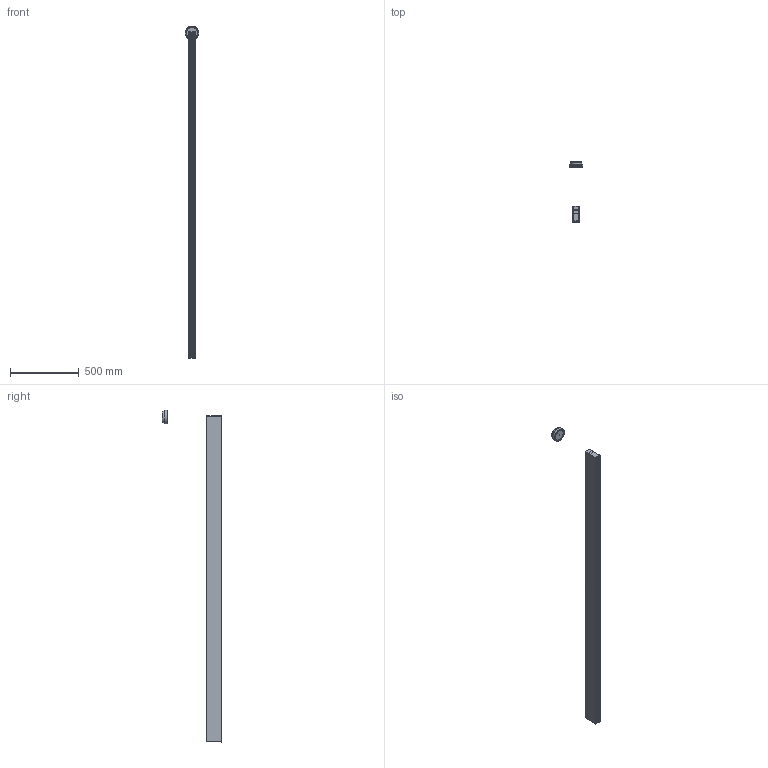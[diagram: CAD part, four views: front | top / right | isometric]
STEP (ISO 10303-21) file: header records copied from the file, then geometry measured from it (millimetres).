
FILE_DESCRIPTION(/* description */ (''),/* implementation_level */ '2;1');
FILE_NAME(/* name */ 'D:\_SHARED\_PROGETTI IN CORSO\Artemide\3D Semplificati\Algoritmo\ASM Semplificati\EXPORT MODELLI SEMPLIFICATI\24.ipt.stp',/* time_stamp */ '2018-02-23T06:07:56-08:00',/* author */ ('NEGRI'),/* organization */ (''),/* preprocessor_version */ 'ST-DEVELOPER v16.13',/* originating_system */ 'Autodesk Inventor 2018',/* authorisation */ '');
FILE_SCHEMA (('AUTOMOTIVE_DESIGN { 1 0 10303 214 3 1 1 }'));
Length unit declared in the file: metre
Products named in the file (1): 24.x_t
Bounding box: 100.35 x 435.9 x 2414.85 mm (x, y, z)
Volume: 3769080.1 mm3; surface area: 2003211.3 mm2
Topology: 15 solids, 15 shells, 243 faces, 575 edges, 366 vertices
Faces by surface type: plane 125, cylinder 82, torus 21, cone 11, bspline 4
Full cylindrical faces by diameter (mm): 2 x1, 80 x1, 82.6 x1, 85 x1
Entity records: 7208 total; most frequent: CARTESIAN_POINT 1471, DIRECTION 1211, ORIENTED_EDGE 1118, EDGE_CURVE 559, AXIS2_PLACEMENT_3D 422, LINE 367, VECTOR 367, VERTEX_POINT 362
